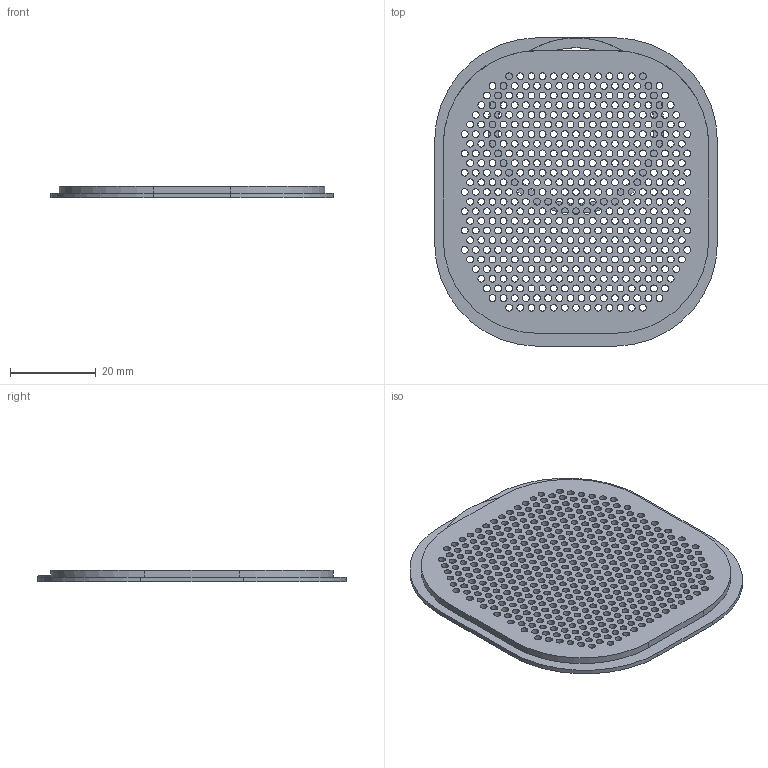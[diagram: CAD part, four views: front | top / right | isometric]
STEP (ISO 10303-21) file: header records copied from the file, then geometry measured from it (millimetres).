
FILE_DESCRIPTION(('Open CASCADE Model'),'2;1');
FILE_NAME('Open CASCADE Shape Model','2026-09-04T14:04:54',('Author'),( 'Open CASCADE'),'Open CASCADE STEP processor 7.7','Open CASCADE 7.7' ,'Unknown');
FILE_SCHEMA(('AUTOMOTIVE_DESIGN { 1 0 10303 214 1 1 1 1 }'));
Products named in the file (1): Open CASCADE STEP translator 7.7 6
Bounding box: 66 x 72 x 2.6 mm (x, y, z)
Volume: 5506.3 mm3; surface area: 11336.4 mm2
Topology: 1 solids, 1 shells, 562 faces, 1748 edges, 1165 vertices
Faces by surface type: cylinder 489, plane 73
Full cylindrical faces by diameter (mm): 1.6 x473, 36.4 x1
Entity records: 47863 total; most frequent: CARTESIAN_POINT 13913, DIRECTION 6165, ORIENTED_EDGE 3496, PCURVE 3496, DEFINITIONAL_REPRESENTATION 3496, LINE 2735, VECTOR 2735, EDGE_CURVE 1748
